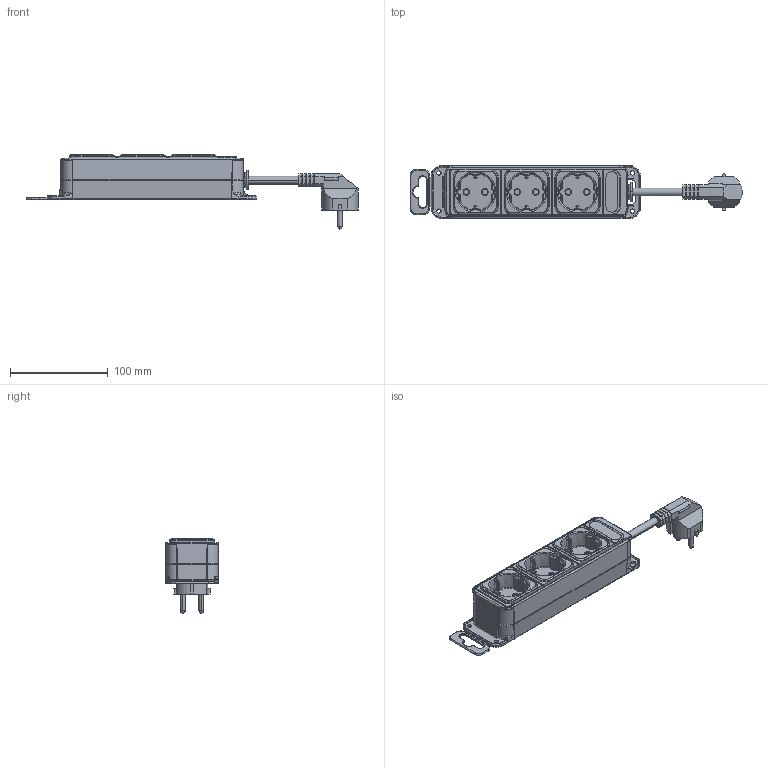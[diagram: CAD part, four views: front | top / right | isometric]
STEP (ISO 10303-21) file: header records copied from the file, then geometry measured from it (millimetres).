
FILE_DESCRIPTION(('Creo Elements/Direct Modeling STEP Export'),'2;1');
FILE_NAME('127015013 Unoversal 3fach BS.stp','2025-08-08T 9:47:25',(''),(''),'Creo Elements/Direct Modeling STEP processor for AP214 (Solid Model)','Creo Elements/Direct Modeling 20.5 09-Apr-2022 (C) Parametric Technology GmbH','');
FILE_SCHEMA(('AUTOMOTIVE_DESIGN { 1 0 10303 214 1 1 1 1 }'));
Products named in the file (2): 127015013 Unoversal 3fach BS
Assembly tree (1 placements, depth 2):
  127015013 Unoversal 3fach BS
    127015013 Unoversal 3fach BS
Bounding box: 338.88 x 55 x 75.7 mm (x, y, z)
Volume: 415383.9 mm3; surface area: 66528.1 mm2
Topology: 1 solids, 1 shells, 1297 faces, 3572 edges, 2254 vertices
Faces by surface type: plane 540, cylinder 403, torus 202, bspline 89, cone 40, sphere 16, extrusion 7
Entity records: 63325 total; most frequent: CARTESIAN_POINT 31986, ORIENTED_EDGE 7072, DIRECTION 5853, EDGE_CURVE 3536, VERTEX_POINT 2254, AXIS2_PLACEMENT_3D 2085, VECTOR 1683, LINE 1676
